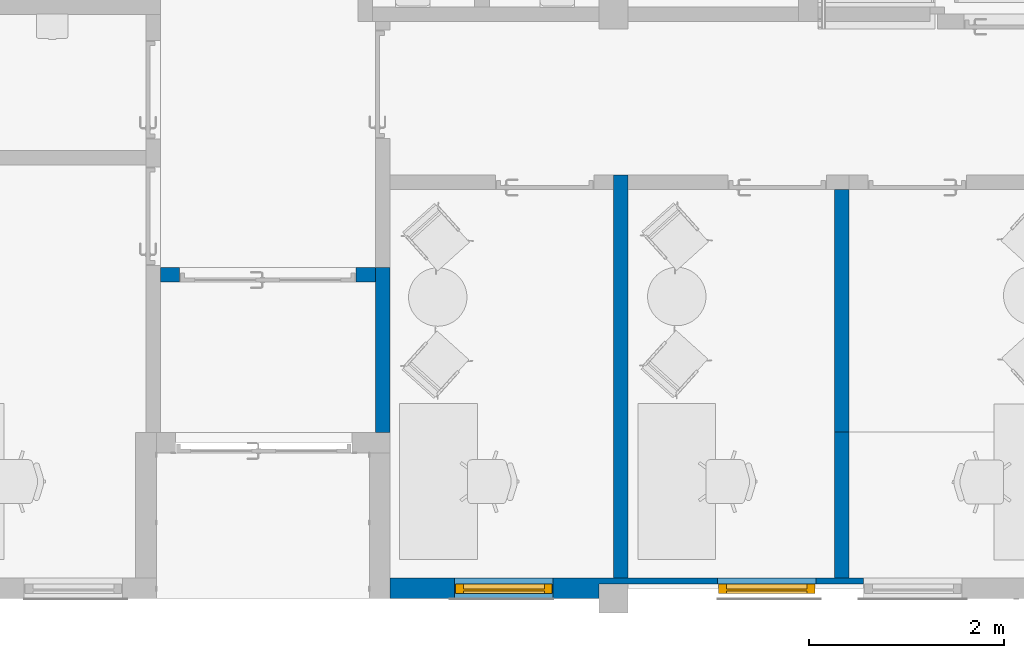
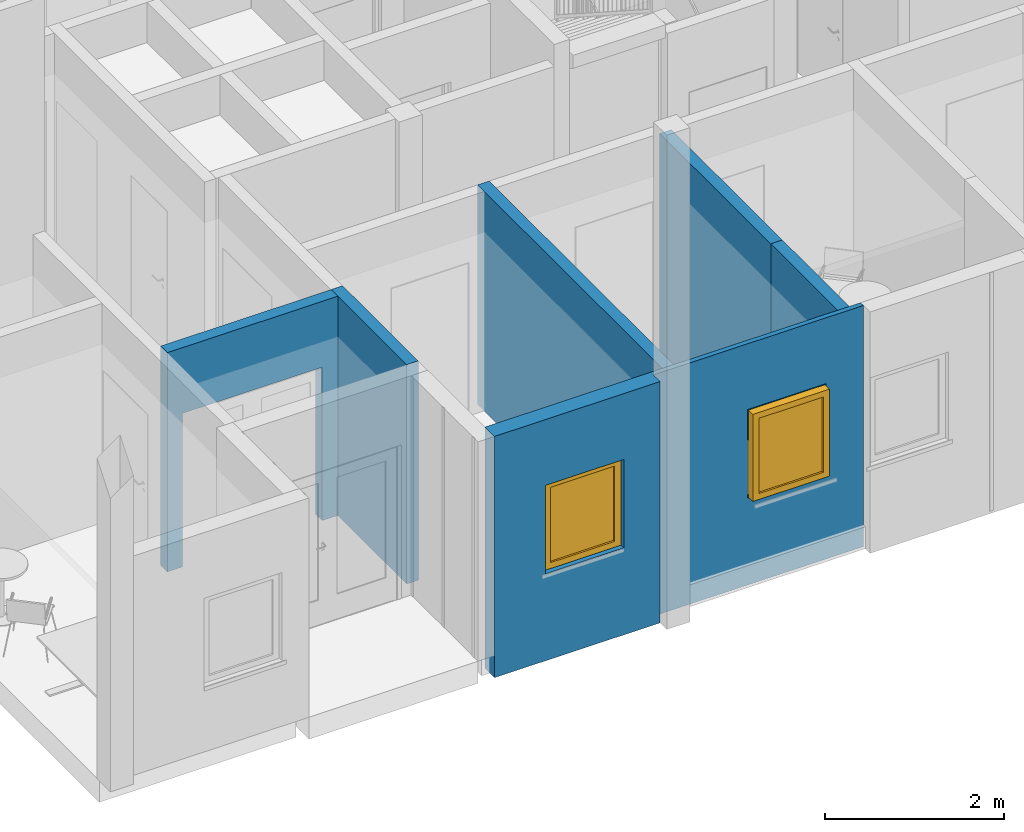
# One storey, part 4 of 58: 6 walls, 2 windows, 5 openings.
"""IFC2X3 building model written with IfcOpenShell, lengths in millimetres."""

from ifc_helpers import new_model, entity, si_unit, converted_unit, derived_unit, direction, frame, frame_2d, origin, origin_2d_with_axis, place, context, subcontext, project, spatial, polyline, rectangle, outline, extrude, clip, bounded_halfspace, source, transform, mapped, material, material_list, layer, layer_set, layer_usage, type_object, type_shapes, element, fill, save


model = new_model("IFC2X3")

# Units and contexts
model_context = context("Model", 3, precision=0.01, world=origin(), true_north=direction((0.7716245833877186, 0.6360782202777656)))
body_context = subcontext(model_context, "Body", "Model", "MODEL_VIEW")
ifc_project = project(units=[si_unit("LENGTHUNIT", "METRE", prefix="MILLI"), si_unit("AREAUNIT", "SQUARE_METRE"), converted_unit("PLANEANGLEUNIT", "DEGREE", entity("IfcPlaneAngleMeasure", 0.017453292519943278), si_unit("PLANEANGLEUNIT", "RADIAN"), dimensions=[0, 0, 0, 0, 0, 0, 0]), derived_unit("THERMALTRANSMITTANCEUNIT", [(si_unit("MASSUNIT", "GRAM", prefix="KILO"), 1), (si_unit("THERMODYNAMICTEMPERATUREUNIT", "KELVIN"), -1), (si_unit("TIMEUNIT", "SECOND"), -3)])], contexts=[model_context])

# Site, building, storey
site_placement = place(None, origin())
site = spatial("IfcSite", under=ifc_project, at=site_placement, Name="Default", CompositionType="ELEMENT")
building_placement = place(site_placement, origin())
building = spatial("IfcBuilding", under=site, at=building_placement, CompositionType="ELEMENT")
storey_placement = place(building_placement, frame((0.0, 0.0, 31140.0)))
storey = spatial("IfcBuildingStorey", under=building, at=storey_placement, Name="PLAN U1", CompositionType="ELEMENT", Elevation=31140.000000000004)

# Wall, openings, windows
ifc_material_1 = material(Name="Beige Fasadeplater")
ifc_layer_1 = layer(ifc_material_1, 10.0)
ifc_material_2 = material(Name="Eksist. vegg")
ifc_layer_2 = layer(ifc_material_2, 190.00000000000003)
ifc_material_3 = material(Name="Gips")
ifc_layer_3 = layer(ifc_material_3, 12.0)
ifc_layer_set_1 = layer_set([ifc_layer_1, ifc_layer_2, ifc_layer_3], Name="Basic Wall:230 Eksist. yttervegg 200 mm")
ifc_layer_usage_1 = layer_usage(ifc_layer_set_1, "AXIS2", "POSITIVE", -106.0)
wall_type_1 = type_object("IfcWallType", Name="Basic Wall:230 Eksist. yttervegg 200 mm", PredefinedType="STANDARD", material=ifc_layer_set_1)
wall_1_placement = place(storey_placement, frame((263623.92444647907, 53421.25555007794, -300.0)))
wall_1 = element("IfcWallStandardCase", 1, at=wall_1_placement, inside=storey, type_object=wall_type_1, material=ifc_layer_usage_1, Name="Basic Wall:230 Eksist. yttervegg 200 mm", ObjectType="Basic Wall:230 Eksist. yttervegg 200 mm", context=body_context, shape_type="Clipping", body=[
    clip(clip(extrude(rectangle(XDim=4860.632040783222, YDim=212.00000000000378, at=frame_2d((2430.316020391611, -9.237055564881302e-14), x_axis=(-1.0, 0.0))), origin(), (0.0, 0.0, 1.0), 3299.999999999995), bounded_halfspace(frame((0.0, 106.0, 3300.0), z_axis=(0.0, 0.0, -1.0), x_axis=(0.0, 1.0, 0.0)), True, frame((0.0, 106.0, 3300.0)), polyline([(0.0, 0.0), (0.0, -212.0), (2144.0, -212.0), (2144.0, -62.0), (2444.0, -62.0), (2444.0, -212.0), (4860.632040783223, -212.0), (4860.632040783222, 0.0), (4713.632040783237, 0.0), (4563.632040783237, 0.0), (2444.0, 0.0), (2294.0, 0.0), (0.0, 0.0)]))), bounded_halfspace(frame((2144.0, 44.0, 3300.0), z_axis=(0.0, 1.0, 0.0), x_axis=(0.0, 0.0, -1.0)), True, frame((2144.0, 44.0, 3300.0), z_axis=(0.0, 1.0, 0.0), x_axis=(0.0, 0.0, -1.0)), polyline([(0.0, 0.0), (0.0, -91440.0), (1005840.0, -91440.0), (1005840.0, 0.0), (0.0, 0.0)]))),
])
opening_1_placement = place(wall_1_placement, frame((663.6320407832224, -106.0, 1190.0)))
opening_1 = element("IfcOpeningElement", 2, at=opening_1_placement, cuts=wall_1, Name="234-Åpningsbart:10x12M Eks.:1", ObjectType="Opening", context=body_context, shape_type="SweptSolid", body=[
    extrude(rectangle(XDim=1209.9999999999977, YDim=1010.0000000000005, at=frame_2d((604.9999999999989, 505.0000000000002), x_axis=(1.0, 0.0))), frame((0.0, 0.0, 0.0), z_axis=(0.0, 1.0, 0.0), x_axis=(0.0, 0.0, 1.0)), (0.0, 0.0, 1.0), 212.0),
])
opening_2_placement = place(wall_1_placement, frame((-263623.92444647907, -53421.25555007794, 300.0)))
element("IfcOpeningElement", 3, at=opening_2_placement, cuts=wall_1, Name="Basic Wall:230 Eksist. yttervegg 200 mm", ObjectType="Opening", context=body_context, shape_type="SweptSolid", body=[
    extrude(rectangle(XDim=1209.9999999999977, YDim=1009.9999999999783, at=frame_2d((1.7337242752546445e-11, 2.1600499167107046e-12), x_axis=(0.0, 1.0))), frame((264792.5564872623, 52003.25555007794, 1495.0), z_axis=(0.0, 1.0, 0.0), x_axis=(-1.0, 0.0, 0.0)), (0.0, 0.0, 1.0), 3048.0),
])
opening_3_placement = place(wall_1_placement, frame((3363.6320407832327, -106.0, 1190.0)))
opening_3 = element("IfcOpeningElement", 4, at=opening_3_placement, cuts=wall_1, Name="234-Åpningsbart:10x12M Eks.:1", ObjectType="Opening", context=body_context, shape_type="SweptSolid", body=[
    extrude(rectangle(XDim=1209.9999999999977, YDim=1010.0000000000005, at=frame_2d((604.9999999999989, 505.0000000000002), x_axis=(1.0, 0.0))), frame((0.0, 0.0, 0.0), z_axis=(0.0, 1.0, 0.0), x_axis=(0.0, 0.0, 1.0)), (0.0, 0.0, 1.0), 212.0),
])
opening_4_placement = place(wall_1_placement, frame((-263623.92444647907, -53421.25555007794, 300.0)))
element("IfcOpeningElement", 5, at=opening_4_placement, cuts=wall_1, Name="Basic Wall:230 Eksist. yttervegg 200 mm", ObjectType="Opening", context=body_context, shape_type="SweptSolid", body=[
    extrude(rectangle(XDim=1209.9999999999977, YDim=1009.9999999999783, at=frame_2d((1.7337242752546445e-11, 2.1600499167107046e-12), x_axis=(0.0, 1.0))), frame((267492.5564872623, 52003.255550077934, 1495.0), z_axis=(0.0, 1.0, 0.0), x_axis=(-1.0, 0.0, 0.0)), (0.0, 0.0, 1.0), 3048.0),
])
ifc_material_4 = material(Name="Vinduskarm")
ifc_material_5 = material(Name="NO_Glass")
ifc_material_list = material_list([ifc_material_4, ifc_material_5])
window_style = type_object("IfcWindowStyle", Name="234-Åpningsbart:10x12M Eks.", ConstructionType="NOTDEFINED", OperationType="NOTDEFINED", ParameterTakesPrecedence=False, Sizeable=False, material=ifc_material_list)
shared_shape = source(origin(), body_context, "Body", "SweptSolid", [
    extrude(outline(polyline([(-555.0, -455.0), (555.0, -455.0), (555.0, 455.0), (-555.0, 455.0), (-555.0, -455.0)]), holes=[polyline([(515.0, -415.0), (-515.0, -415.0), (-515.0, 415.0), (515.0, 415.0), (515.0, -415.0)])]), frame((505.0, 62.0, 605.0), z_axis=(0.0, 1.0, 0.0), x_axis=(0.0, 0.0, 1.0)), (0.0, 0.0, 1.0), 100.0),
    extrude(rectangle(XDim=25.0, YDim=830.0000000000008, at=origin_2d_with_axis()), frame((505.0, 124.5000000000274, 90.0), z_axis=(0.0, 0.0, 1.0), x_axis=(0.0, 1.0, 0.0)), (0.0, 0.0, 1.0), 1030.0000000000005),
    extrude(outline(polyline([(-595.0, -495.0), (595.0, -495.0), (595.0, 495.0), (-595.0, 495.0), (-595.0, -495.0)]), holes=[polyline([(555.0, -455.0), (-555.0, -455.0), (-555.0, 455.0), (555.0, 455.0), (555.0, -455.0)])]), frame((505.0, 62.0, 605.0), z_axis=(0.0, 1.0, 0.0), x_axis=(0.0, 0.0, 1.0)), (0.0, 0.0, 1.0), 100.0),
])
type_shapes(window_style, [shared_shape])
window_1_placement = place(opening_1_placement, frame((1010.0, 212.0, 0.0), z_axis=(0.0, 0.0, 1.0), x_axis=(-1.0, 0.0, 0.0)))
window_1 = element("IfcWindow", 6, at=window_1_placement, inside=storey, type_object=window_style, material=ifc_material_list, Name="234-Åpningsbart:10x12M Eks.", ObjectType="234-Åpningsbart:10x12M Eks.", OverallHeight=1209.9999999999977, OverallWidth=1010.000000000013, context=body_context, shape_type="MappedRepresentation", body=[
    mapped(shared_shape, transform((0.0, 0.0, 0.0), scale=1.0)),
])
fill(opening_1, window_1)
window_2_placement = place(opening_3_placement, frame((1010.0, 212.0, 0.0), z_axis=(0.0, 0.0, 1.0), x_axis=(-1.0, 0.0, 0.0)))
window_2 = element("IfcWindow", 7, at=window_2_placement, inside=storey, type_object=window_style, material=ifc_material_list, Name="234-Åpningsbart:10x12M Eks.", ObjectType="234-Åpningsbart:10x12M Eks.", OverallHeight=1209.9999999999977, OverallWidth=1010.000000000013, context=body_context, shape_type="MappedRepresentation", body=[
    mapped(shared_shape, transform((0.0, 0.0, 0.0), scale=1.0)),
])
fill(opening_3, window_2)

# Wall, opening
ifc_layer_4 = layer(ifc_material_2, 150.0)
ifc_layer_set_2 = layer_set([ifc_layer_4], Name="Basic Wall:240 Eksist. Innervegg 150 mm")
ifc_layer_usage_2 = layer_usage(ifc_layer_set_2, "AXIS2", "NEGATIVE", 75.0)
wall_type_2 = type_object("IfcWallType", Name="Basic Wall:240 Eksist. Innervegg 150 mm", PredefinedType="STANDARD", material=ifc_layer_set_2)
wall_2_placement = place(storey_placement, frame((261267.9244464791, 56640.25555007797, 0.0)))
wall_2 = element("IfcWallStandardCase", 8, at=wall_2_placement, inside=storey, type_object=wall_type_2, material=ifc_layer_usage_2, Name="Basic Wall:240 Eksist. Innervegg 150 mm", ObjectType="Basic Wall:240 Eksist. Innervegg 150 mm", context=body_context, shape_type="SweptSolid", body=[
    extrude(rectangle(XDim=2205.9999999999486, YDim=150.00000000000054, at=frame_2d((1102.9999999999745, -2.6290081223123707e-13), x_axis=(1.0, 0.0))), origin(), (0.0, 0.0, 1.0), 2999.9999999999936),
])
opening_5_placement = place(wall_2_placement, frame((2005.0, 75.0, 0.0)))
element("IfcOpeningElement", 9, at=opening_5_placement, cuts=wall_2, Name="Likefløyet:2441 Innvendig 18x21M - Glass:1", ObjectType="Opening", context=body_context, shape_type="SweptSolid", body=[
    extrude(rectangle(XDim=2100.000000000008, YDim=1810.0000000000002, at=frame_2d((1050.0000000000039, 905.0000000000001), x_axis=(1.0, 0.0))), frame((0.0, 0.0, 0.0), z_axis=(0.0, -1.0, 0.0), x_axis=(0.0, 0.0, 1.0)), (0.0, 0.0, 1.0), 150.0),
])

# Walls
ifc_layer_usage_3 = layer_usage(ifc_layer_set_2, "AXIS2", "NEGATIVE", 75.0)
wall_3_placement = place(storey_placement, frame((263548.92444647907, 56715.25555007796, 0.0), z_axis=(0.0, 0.0, 1.0), x_axis=(0.0, -1.0, 0.0)))
element("IfcWallStandardCase", 10, at=wall_3_placement, inside=storey, type_object=wall_type_2, material=ifc_layer_usage_3, Name="Basic Wall:240 Eksist. Innervegg 150 mm", ObjectType="Basic Wall:240 Eksist. Innervegg 150 mm", context=body_context, shape_type="SweptSolid", body=[
    extrude(rectangle(XDim=1693.9999999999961, YDim=150.00000000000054, at=frame_2d((846.9999999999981, 0.0), x_axis=(-1.0, 0.0))), origin(), (0.0, 0.0, 1.0), 2999.9999999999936),
])
ifc_layer_usage_4 = layer_usage(ifc_layer_set_2, "AXIS2", "NEGATIVE", 75.0)
wall_4_placement = place(storey_placement, frame((265992.924446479, 53527.255550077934, 0.0), z_axis=(0.0, 0.0, 1.0), x_axis=(0.0, 1.0, 0.0)))
element("IfcWallStandardCase", 11, at=wall_4_placement, inside=storey, type_object=wall_type_2, material=ifc_layer_usage_4, Name="Basic Wall:240 Eksist. Innervegg 150 mm", ObjectType="Basic Wall:240 Eksist. Innervegg 150 mm", context=body_context, shape_type="SweptSolid", body=[
    extrude(rectangle(XDim=4137.999999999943, YDim=150.00000000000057, at=frame_2d((2068.9999999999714, -1.5774048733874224e-12), x_axis=(-1.0, 0.0))), origin(), (0.0, 0.0, 1.0), 2999.9999999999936),
])
ifc_layer_usage_5 = layer_usage(ifc_layer_set_2, "AXIS2", "NEGATIVE", 75.0)
wall_5_placement = place(storey_placement, frame((268262.5564872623, 55027.25555007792, 0.0), z_axis=(0.0, 0.0, 1.0), x_axis=(0.0, 1.0, 0.0)))
element("IfcWallStandardCase", 12, at=wall_5_placement, inside=storey, type_object=wall_type_2, material=ifc_layer_usage_5, Name="Basic Wall:240 Eksist. Innervegg 150 mm", ObjectType="Basic Wall:240 Eksist. Innervegg 150 mm", context=body_context, shape_type="SweptSolid", body=[
    extrude(rectangle(XDim=2487.9999999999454, YDim=150.00000000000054, at=frame_2d((1243.9999999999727, 0.0), x_axis=(-1.0, 0.0))), origin(), (0.0, 0.0, 1.0), 2999.9999999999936),
])
ifc_layer_usage_6 = layer_usage(ifc_layer_set_2, "AXIS2", "NEGATIVE", 75.0)
wall_6_placement = place(storey_placement, frame((268262.5564872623, 55027.25555007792, 0.0), z_axis=(0.0, 0.0, 1.0), x_axis=(0.0, -1.0, 0.0)))
element("IfcWallStandardCase", 13, at=wall_6_placement, inside=storey, type_object=wall_type_2, material=ifc_layer_usage_6, Name="Basic Wall:240 Eksist. Innervegg 150 mm", ObjectType="Basic Wall:240 Eksist. Innervegg 150 mm", context=body_context, shape_type="SweptSolid", body=[
    extrude(rectangle(XDim=1499.9999999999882, YDim=150.00000000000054, at=frame_2d((749.9999999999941, 0.0), x_axis=(-1.0, 0.0))), origin(), (0.0, 0.0, 1.0), 2999.9999999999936),
])

save(model, "model.ifc")
